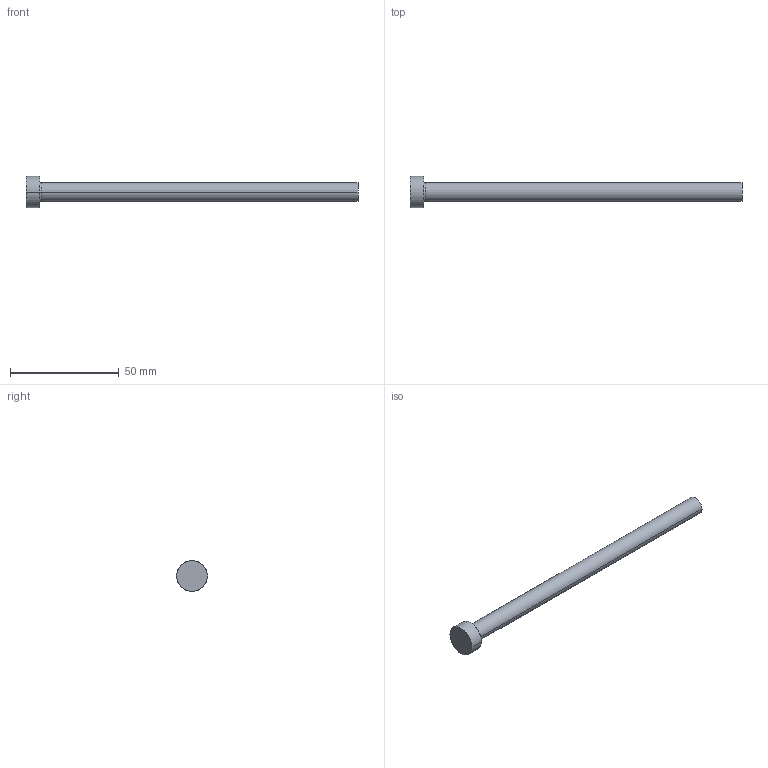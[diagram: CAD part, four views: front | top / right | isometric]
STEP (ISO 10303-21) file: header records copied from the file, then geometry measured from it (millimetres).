
FILE_DESCRIPTION (( 'STEP AP214' ), '1' );
FILE_NAME ('P22-6.STEP', '2020-03-12T09:39:32', ( '' ), ( '' ), 'SwSTEP 2.0', 'SolidWorks 2018', '' );
FILE_SCHEMA (( 'AUTOMOTIVE_DESIGN' ));
Length unit declared in the file: inch
Products named in the file (1): P22-6
Bounding box: 152.4 x 14.29 x 14.29 mm (x, y, z)
Volume: 8974.2 mm3; surface area: 4412.6 mm2
Topology: 1 solids, 1 shells, 13 faces, 24 edges, 14 vertices
Faces by surface type: cone 4, cylinder 4, plane 3, torus 2
Entity records: 366 total; most frequent: DIRECTION 68, CARTESIAN_POINT 52, ORIENTED_EDGE 48, AXIS2_PLACEMENT_3D 30, EDGE_CURVE 24, CIRCLE 16, VERTEX_POINT 14, EDGE_LOOP 14
